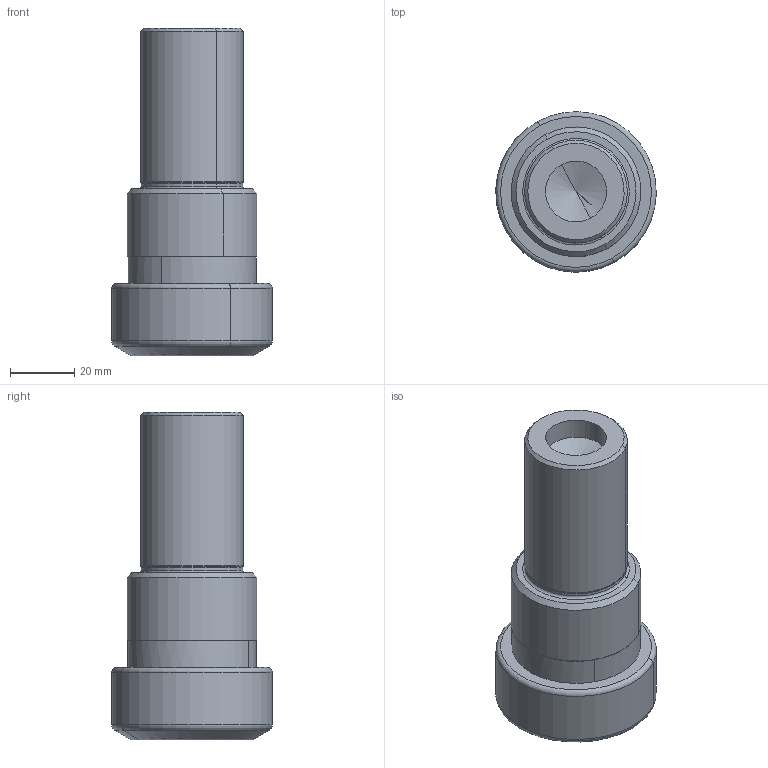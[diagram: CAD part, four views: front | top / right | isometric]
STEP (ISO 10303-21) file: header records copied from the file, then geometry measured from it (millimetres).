
FILE_DESCRIPTION(('CATIA V5 STEP','CAx-IF Rec.Pracs.--- Model Styling and Organization---1.2---2011-12-15'),'2;1');
FILE_NAME('\\nas01\drv1\utils\eitdev\rte\eit\transmagicconvert\db\out\635964845190834218\4508006-L-M.stp','2016-04-17T07:08:50+00:00',('none'),('none'),'CATIA Version 5 Release 21 SP 5 (IN-10)','CATIA V5 STEP AP214','none');
FILE_SCHEMA(('AUTOMOTIVE_DESIGN { 1 0 10303 214 1 1 1 1 }'));
Length unit declared in the file: millimetre
Products named in the file (1): ST 32X 50 ER32 F 
Bounding box: 49.99 x 49.99 x 102 mm (x, y, z)
Volume: 87334.6 mm3; surface area: 20103.2 mm2
Topology: 1 solids, 1 shells, 50 faces, 110 edges, 62 vertices
Faces by surface type: cylinder 16, cone 14, torus 10, plane 6, revolution 4
Entity records: 1253 total; most frequent: CARTESIAN_POINT 255, ORIENTED_EDGE 212, DIRECTION 159, EDGE_CURVE 106, AXIS2_PLACEMENT_3D 96, CIRCLE 67, VERTEX_POINT 62, EDGE_LOOP 54
